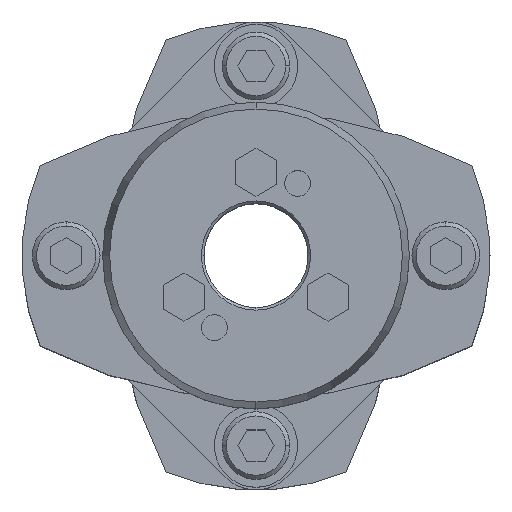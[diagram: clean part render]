
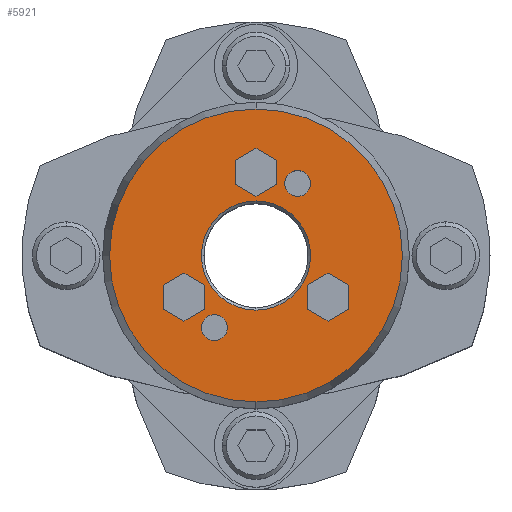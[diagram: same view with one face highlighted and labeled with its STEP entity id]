
A CAD part, top view. The second image highlights one B-rep face of the part: STEP entity #5921.
In plain terms, the highlighted planar face has unit normal (0, 0, 1).
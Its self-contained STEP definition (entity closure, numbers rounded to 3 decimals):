
#1677=CARTESIAN_POINT('',(0.,10.5,52.0));
#1678=VERTEX_POINT('',#1677);
#1694=CARTESIAN_POINT('',(0.,-10.5,52.0));
#1695=VERTEX_POINT('',#1694);
#1702=CARTESIAN_POINT('',(0.,0.,52.0));
#1703=DIRECTION('',(0.0,0.0,1.0));
#1704=DIRECTION('',(0.0,1.0,0.0));
#1705=AXIS2_PLACEMENT_3D('',#1702,#1703,#1704);
#1706=CIRCLE('',#1705,10.5);
#1707=EDGE_CURVE('',#1695,#1678,#1706,.T.);
#1865=CARTESIAN_POINT('',(0.,-28.16,52.0));
#1866=VERTEX_POINT('',#1865);
#1873=CARTESIAN_POINT('',(0.,28.16,52.0));
#1874=VERTEX_POINT('',#1873);
#1875=CARTESIAN_POINT('',(0.,0.,52.0));
#1876=DIRECTION('',(0.0,0.0,-1.0));
#1877=DIRECTION('',(0.0,-1.0,0.0));
#1878=AXIS2_PLACEMENT_3D('',#1875,#1876,#1877);
#1879=CIRCLE('',#1878,28.16);
#1880=EDGE_CURVE('',#1866,#1874,#1879,.T.);
#2123=CARTESIAN_POINT('',(8.,16.356,52.0));
#2124=VERTEX_POINT('',#2123);
#2140=CARTESIAN_POINT('',(8.,11.356,52.0));
#2141=VERTEX_POINT('',#2140);
#2148=CARTESIAN_POINT('',(8.,13.856,52.0));
#2149=DIRECTION('',(0.0,0.0,-1.0));
#2150=DIRECTION('',(0.0,1.0,0.0));
#2151=AXIS2_PLACEMENT_3D('',#2148,#2149,#2150);
#2152=CIRCLE('',#2151,2.5);
#2153=EDGE_CURVE('',#2124,#2141,#2152,.T.);
#2165=CARTESIAN_POINT('',(-8.,-11.356,52.0));
#2166=VERTEX_POINT('',#2165);
#2182=CARTESIAN_POINT('',(-8.,-16.356,52.0));
#2183=VERTEX_POINT('',#2182);
#2190=CARTESIAN_POINT('',(-8.,-13.856,52.0));
#2191=DIRECTION('',(0.0,0.0,-1.0));
#2192=DIRECTION('',(0.0,1.0,0.0));
#2193=AXIS2_PLACEMENT_3D('',#2190,#2191,#2192);
#2194=CIRCLE('',#2193,2.5);
#2195=EDGE_CURVE('',#2166,#2183,#2194,.T.);
#4437=CARTESIAN_POINT('',(13.856,-3.381,52.0));
#4438=VERTEX_POINT('',#4437);
#4445=CARTESIAN_POINT('',(9.856,-5.691,52.0));
#4446=VERTEX_POINT('',#4445);
#4447=CARTESIAN_POINT('',(9.856,-5.691,52.0));
#4448=DIRECTION('',(0.866,0.5,0.0));
#4449=VECTOR('',#4448,4.619);
#4450=LINE('',#4447,#4449);
#4451=EDGE_CURVE('',#4446,#4438,#4450,.T.);
#4475=CARTESIAN_POINT('',(17.856,-5.691,52.0));
#4476=VERTEX_POINT('',#4475);
#4483=CARTESIAN_POINT('',(13.856,-3.381,52.0));
#4484=DIRECTION('',(0.866,-0.5,0.0));
#4485=VECTOR('',#4484,4.619);
#4486=LINE('',#4483,#4485);
#4487=EDGE_CURVE('',#4438,#4476,#4486,.T.);
#4506=CARTESIAN_POINT('',(17.856,-10.309,52.0));
#4507=VERTEX_POINT('',#4506);
#4514=CARTESIAN_POINT('',(17.856,-5.691,52.0));
#4515=DIRECTION('',(0.0,-1.0,0.0));
#4516=VECTOR('',#4515,4.619);
#4517=LINE('',#4514,#4516);
#4518=EDGE_CURVE('',#4476,#4507,#4517,.T.);
#4537=CARTESIAN_POINT('',(13.856,-12.619,52.0));
#4538=VERTEX_POINT('',#4537);
#4545=CARTESIAN_POINT('',(17.856,-10.309,52.0));
#4546=DIRECTION('',(-0.866,-0.5,0.0));
#4547=VECTOR('',#4546,4.619);
#4548=LINE('',#4545,#4547);
#4549=EDGE_CURVE('',#4507,#4538,#4548,.T.);
#4568=CARTESIAN_POINT('',(9.856,-10.309,52.0));
#4569=VERTEX_POINT('',#4568);
#4576=CARTESIAN_POINT('',(13.856,-12.619,52.0));
#4577=DIRECTION('',(-0.866,0.5,0.0));
#4578=VECTOR('',#4577,4.619);
#4579=LINE('',#4576,#4578);
#4580=EDGE_CURVE('',#4538,#4569,#4579,.T.);
#4598=CARTESIAN_POINT('',(9.856,-10.309,52.0));
#4599=DIRECTION('',(0.0,1.0,0.0));
#4600=VECTOR('',#4599,4.619);
#4601=LINE('',#4598,#4600);
#4602=EDGE_CURVE('',#4569,#4446,#4601,.T.);
#4637=CARTESIAN_POINT('',(0.,20.619,52.0));
#4638=VERTEX_POINT('',#4637);
#4645=CARTESIAN_POINT('',(-4.,18.309,52.0));
#4646=VERTEX_POINT('',#4645);
#4647=CARTESIAN_POINT('',(-4.,18.309,52.0));
#4648=DIRECTION('',(0.866,0.5,0.0));
#4649=VECTOR('',#4648,4.619);
#4650=LINE('',#4647,#4649);
#4651=EDGE_CURVE('',#4646,#4638,#4650,.T.);
#4675=CARTESIAN_POINT('',(4.,18.309,52.0));
#4676=VERTEX_POINT('',#4675);
#4683=CARTESIAN_POINT('',(0.,20.619,52.0));
#4684=DIRECTION('',(0.866,-0.5,0.0));
#4685=VECTOR('',#4684,4.619);
#4686=LINE('',#4683,#4685);
#4687=EDGE_CURVE('',#4638,#4676,#4686,.T.);
#4706=CARTESIAN_POINT('',(4.,13.691,52.0));
#4707=VERTEX_POINT('',#4706);
#4714=CARTESIAN_POINT('',(4.,18.309,52.0));
#4715=DIRECTION('',(0.0,-1.0,0.0));
#4716=VECTOR('',#4715,4.619);
#4717=LINE('',#4714,#4716);
#4718=EDGE_CURVE('',#4676,#4707,#4717,.T.);
#4737=CARTESIAN_POINT('',(0.,11.381,52.0));
#4738=VERTEX_POINT('',#4737);
#4745=CARTESIAN_POINT('',(4.,13.691,52.0));
#4746=DIRECTION('',(-0.866,-0.5,0.0));
#4747=VECTOR('',#4746,4.619);
#4748=LINE('',#4745,#4747);
#4749=EDGE_CURVE('',#4707,#4738,#4748,.T.);
#4768=CARTESIAN_POINT('',(-4.,13.691,52.0));
#4769=VERTEX_POINT('',#4768);
#4776=CARTESIAN_POINT('',(0.,11.381,52.0));
#4777=DIRECTION('',(-0.866,0.5,0.0));
#4778=VECTOR('',#4777,4.619);
#4779=LINE('',#4776,#4778);
#4780=EDGE_CURVE('',#4738,#4769,#4779,.T.);
#4798=CARTESIAN_POINT('',(-4.,13.691,52.0));
#4799=DIRECTION('',(0.0,1.0,0.0));
#4800=VECTOR('',#4799,4.619);
#4801=LINE('',#4798,#4800);
#4802=EDGE_CURVE('',#4769,#4646,#4801,.T.);
#4837=CARTESIAN_POINT('',(-13.856,-3.381,52.0));
#4838=VERTEX_POINT('',#4837);
#4845=CARTESIAN_POINT('',(-17.856,-5.691,52.0));
#4846=VERTEX_POINT('',#4845);
#4847=CARTESIAN_POINT('',(-17.856,-5.691,52.0));
#4848=DIRECTION('',(0.866,0.5,0.0));
#4849=VECTOR('',#4848,4.619);
#4850=LINE('',#4847,#4849);
#4851=EDGE_CURVE('',#4846,#4838,#4850,.T.);
#4875=CARTESIAN_POINT('',(-9.856,-5.691,52.0));
#4876=VERTEX_POINT('',#4875);
#4883=CARTESIAN_POINT('',(-13.856,-3.381,52.0));
#4884=DIRECTION('',(0.866,-0.5,0.0));
#4885=VECTOR('',#4884,4.619);
#4886=LINE('',#4883,#4885);
#4887=EDGE_CURVE('',#4838,#4876,#4886,.T.);
#4906=CARTESIAN_POINT('',(-9.856,-10.309,52.0));
#4907=VERTEX_POINT('',#4906);
#4914=CARTESIAN_POINT('',(-9.856,-5.691,52.0));
#4915=DIRECTION('',(0.0,-1.0,0.0));
#4916=VECTOR('',#4915,4.619);
#4917=LINE('',#4914,#4916);
#4918=EDGE_CURVE('',#4876,#4907,#4917,.T.);
#4937=CARTESIAN_POINT('',(-13.856,-12.619,52.0));
#4938=VERTEX_POINT('',#4937);
#4945=CARTESIAN_POINT('',(-9.856,-10.309,52.0));
#4946=DIRECTION('',(-0.866,-0.5,0.0));
#4947=VECTOR('',#4946,4.619);
#4948=LINE('',#4945,#4947);
#4949=EDGE_CURVE('',#4907,#4938,#4948,.T.);
#4968=CARTESIAN_POINT('',(-17.856,-10.309,52.0));
#4969=VERTEX_POINT('',#4968);
#4976=CARTESIAN_POINT('',(-13.856,-12.619,52.0));
#4977=DIRECTION('',(-0.866,0.5,0.0));
#4978=VECTOR('',#4977,4.619);
#4979=LINE('',#4976,#4978);
#4980=EDGE_CURVE('',#4938,#4969,#4979,.T.);
#4998=CARTESIAN_POINT('',(-17.856,-10.309,52.0));
#4999=DIRECTION('',(0.0,1.0,0.0));
#5000=VECTOR('',#4999,4.619);
#5001=LINE('',#4998,#5000);
#5002=EDGE_CURVE('',#4969,#4846,#5001,.T.);
#5028=CARTESIAN_POINT('',(-8.,-13.856,52.0));
#5029=DIRECTION('',(0.0,0.0,-1.0));
#5030=DIRECTION('',(0.0,1.0,0.0));
#5031=AXIS2_PLACEMENT_3D('',#5028,#5029,#5030);
#5032=CIRCLE('',#5031,2.5);
#5033=EDGE_CURVE('',#2183,#2166,#5032,.T.);
#5062=CARTESIAN_POINT('',(8.,13.856,52.0));
#5063=DIRECTION('',(0.0,0.0,-1.0));
#5064=DIRECTION('',(0.0,1.0,0.0));
#5065=AXIS2_PLACEMENT_3D('',#5062,#5063,#5064);
#5066=CIRCLE('',#5065,2.5);
#5067=EDGE_CURVE('',#2141,#2124,#5066,.T.);
#5860=CARTESIAN_POINT('',(0.,0.,52.0));
#5861=DIRECTION('',(0.0,0.0,-1.0));
#5862=DIRECTION('',(0.0,-1.0,0.0));
#5863=AXIS2_PLACEMENT_3D('',#5860,#5861,#5862);
#5864=CIRCLE('',#5863,28.16);
#5865=EDGE_CURVE('',#1874,#1866,#5864,.T.);
#5870=CARTESIAN_POINT('',(0.,2.682,52.0));
#5871=DIRECTION('',(0.0,0.0,1.0));
#5872=DIRECTION('',(0.0,1.0,0.0));
#5873=AXIS2_PLACEMENT_3D('',#5870,#5871,#5872);
#5874=PLANE('',#5873);
#5875=ORIENTED_EDGE('',*,*,#5865,.F.);
#5876=ORIENTED_EDGE('',*,*,#1880,.F.);
#5877=EDGE_LOOP('',(#5875,#5876));
#5878=FACE_OUTER_BOUND('',#5877,.T.);
#5879=ORIENTED_EDGE('',*,*,#4451,.T.);
#5880=ORIENTED_EDGE('',*,*,#4487,.T.);
#5881=ORIENTED_EDGE('',*,*,#4518,.T.);
#5882=ORIENTED_EDGE('',*,*,#4549,.T.);
#5883=ORIENTED_EDGE('',*,*,#4580,.T.);
#5884=ORIENTED_EDGE('',*,*,#4602,.T.);
#5885=EDGE_LOOP('',(#5879,#5880,#5881,#5882,#5883,#5884));
#5886=FACE_BOUND('',#5885,.T.);
#5887=ORIENTED_EDGE('',*,*,#4651,.T.);
#5888=ORIENTED_EDGE('',*,*,#4687,.T.);
#5889=ORIENTED_EDGE('',*,*,#4718,.T.);
#5890=ORIENTED_EDGE('',*,*,#4749,.T.);
#5891=ORIENTED_EDGE('',*,*,#4780,.T.);
#5892=ORIENTED_EDGE('',*,*,#4802,.T.);
#5893=EDGE_LOOP('',(#5887,#5888,#5889,#5890,#5891,#5892));
#5894=FACE_BOUND('',#5893,.T.);
#5895=ORIENTED_EDGE('',*,*,#4851,.T.);
#5896=ORIENTED_EDGE('',*,*,#4887,.T.);
#5897=ORIENTED_EDGE('',*,*,#4918,.T.);
#5898=ORIENTED_EDGE('',*,*,#4949,.T.);
#5899=ORIENTED_EDGE('',*,*,#4980,.T.);
#5900=ORIENTED_EDGE('',*,*,#5002,.T.);
#5901=EDGE_LOOP('',(#5895,#5896,#5897,#5898,#5899,#5900));
#5902=FACE_BOUND('',#5901,.T.);
#5903=ORIENTED_EDGE('',*,*,#2195,.T.);
#5904=ORIENTED_EDGE('',*,*,#5033,.T.);
#5905=EDGE_LOOP('',(#5903,#5904));
#5906=FACE_BOUND('',#5905,.T.);
#5907=ORIENTED_EDGE('',*,*,#2153,.T.);
#5908=ORIENTED_EDGE('',*,*,#5067,.T.);
#5909=EDGE_LOOP('',(#5907,#5908));
#5910=FACE_BOUND('',#5909,.T.);
#5911=ORIENTED_EDGE('',*,*,#1707,.F.);
#5912=CARTESIAN_POINT('',(0.,0.,52.0));
#5913=DIRECTION('',(0.0,0.0,1.0));
#5914=DIRECTION('',(0.0,1.0,0.0));
#5915=AXIS2_PLACEMENT_3D('',#5912,#5913,#5914);
#5916=CIRCLE('',#5915,10.5);
#5917=EDGE_CURVE('',#1678,#1695,#5916,.T.);
#5918=ORIENTED_EDGE('',*,*,#5917,.F.);
#5919=EDGE_LOOP('',(#5911,#5918));
#5920=FACE_BOUND('',#5919,.T.);
#5921=ADVANCED_FACE('',(#5878,#5886,#5894,#5902,#5906,#5910,#5920),#5874,.T.);
